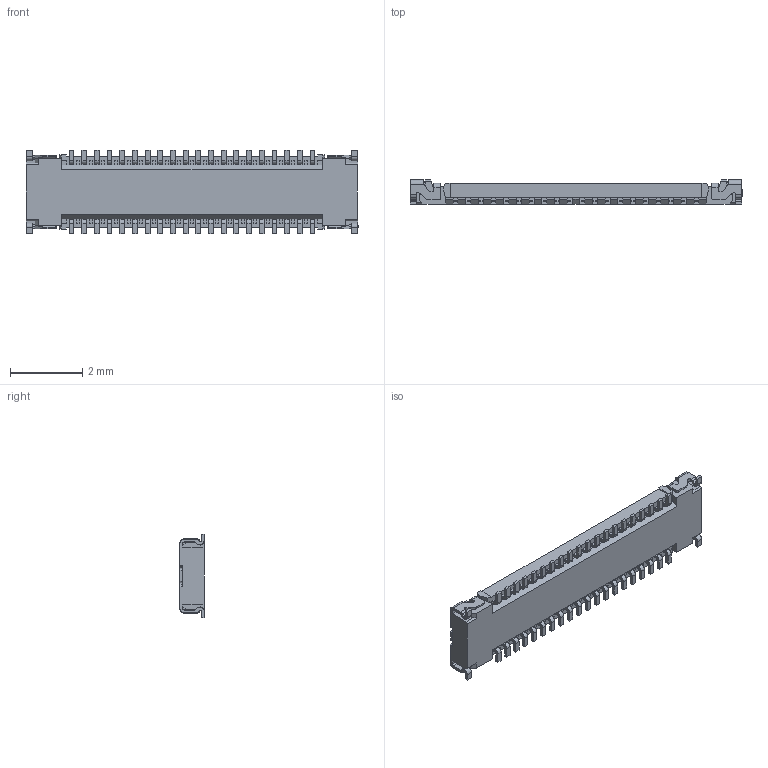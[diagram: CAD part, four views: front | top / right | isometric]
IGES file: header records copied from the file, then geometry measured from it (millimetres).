
Start section: SolidWorks IGES file using analytic representation for surfaces
Global section: file name: C:\3dwork\ota\20161117 NOVA35P 少極・識別　改定\20709-040EC RECE ASSY IGES R1.IGS; native system: SolidWorks 2014; preprocessor: SolidWorks 2014; author: 3dcad; date: 170214.160846; units: millimetre
Bounding box: 9.17 x 0.67 x 2.3 mm (x, y, z)
Surface area: 77.1 mm2 (no closed solid volume)
Topology: 0 solids, 0 shells, 2805 faces, 15630 edges, 15626 vertices
Faces by surface type: bspline 1691, revolution 1114
